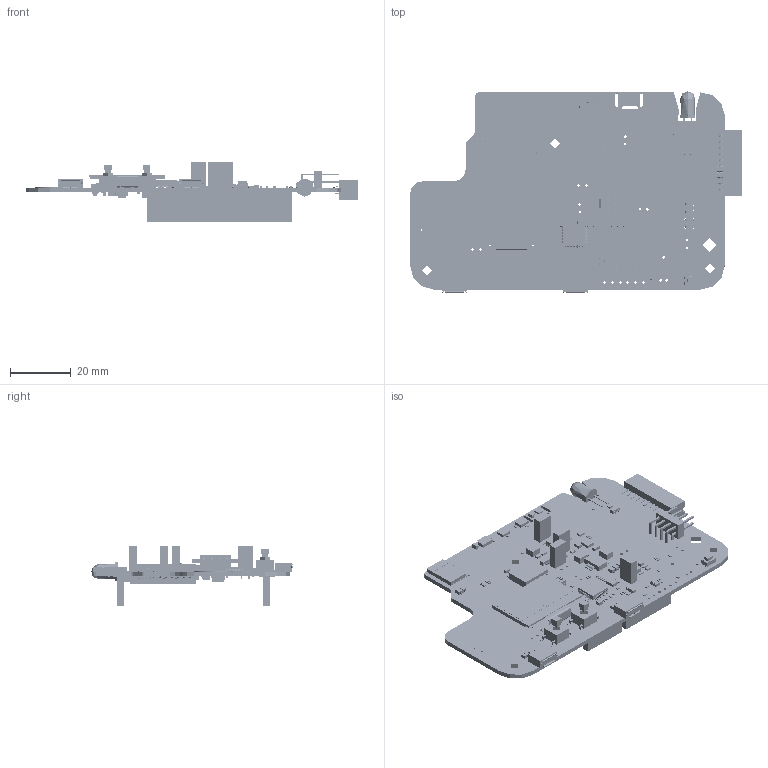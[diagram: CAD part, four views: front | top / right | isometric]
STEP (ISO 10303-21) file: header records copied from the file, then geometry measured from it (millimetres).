
FILE_DESCRIPTION(('Open CASCADE Model'),'2;1');
FILE_NAME('Open CASCADE Shape Model','2021-01-16T16:36:14',('Author'),( 'Open CASCADE'),'Open CASCADE STEP processor 6.8','Open CASCADE 6.8' ,'Unknown');
FILE_SCHEMA(('AUTOMOTIVE_DESIGN { 1 0 10303 214 1 1 1 1 }'));
Length unit declared in the file: millimetre
Products named in the file (443): PCB; Board; Open CASCADE STEP translator 6.8 1.1.1; JP5; TSW-102-07-G-S; _TSW-102-07-G-S_body; _T-1S6-07-TSW-1-07-2-S; 6474907568; Extruded; JP4; C56; Capacitors_0201_H0P3; 6282519520; C55; C54; SB11; R0603; 6292926560; SB6; TS1; 6475469488; LDIR1; LED-D5Y; CN5; DF11-20DS-2DSA; 20DS; 6474498992; JP3; 6474139744; R58; R0402; 6328818384; R57; 6474504112; R56; R55; R54; R53; R52; R51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
Assembly tree (822 placements, depth 4):
  PCB
    Board
      Open CASCADE STEP translator 6.8 1.1.1
    JP5
      TSW-102-07-G-S
        _TSW-102-07-G-S_body
        _T-1S6-07-TSW-1-07-2-S
      6474907568
        Extruded
    JP4
      TSW-102-07-G-S
        _TSW-102-07-G-S_body
        _T-1S6-07-TSW-1-07-2-S
      6474907568
        Extruded
    C56
      Capacitors_0201_H0P3
      6282519520
        Extruded
    C55
      Capacitors_0201_H0P3
      6282519520
        Extruded
    C54
      Capacitors_0201_H0P3
      6282519520
        Extruded
    SB11
      R0603
      6292926560
        Extruded
    SB6
      R0603
      6292926560
        Extruded
    TS1
      6475469488
        Extruded
    LDIR1
      LED-D5Y
    CN5
      DF11-20DS-2DSA
        20DS
      6474498992  x2
        Extruded
    JP3
      TSW-102-07-G-S
        _TSW-102-07-G-S_body
        _T-1S6-07-TSW-1-07-2-S
      6474139744
        Extruded
    R58
      R0402
      6328818384
        Extruded
    R57
      R0402
      6474504112
        Extruded
    R56
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Bounding box: 109.55 x 66.47 x 19.7 mm (x, y, z)
Topology: 741 solids, 755 shells, 27972 faces, 66477 edges, 38493 vertices
Faces by surface type: plane 11845, cylinder 8108, bspline 5012, sphere 2266, torus 554, revolution 168, cone 19
Full cylindrical faces by diameter (mm): 0.2 x1, 0.3 x3, 0.4 x2, 0.5 x1, 0.6 x1, 0.7 x1, 0.75 x2, 0.8 x3, 0.9 x4, 1 x24, 1.05 x10, 1.1 x3, 3.3 x3, 3.4 x2, 4.5 x1
Entity records: 262157 total; most frequent: CARTESIAN_POINT 71030, ORIENTED_EDGE 33126, DIRECTION 31445, EDGE_CURVE 16597, LINE 12773, VECTOR 12773, VERTEX_POINT 10588, AXIS2_PLACEMENT_3D 9332
